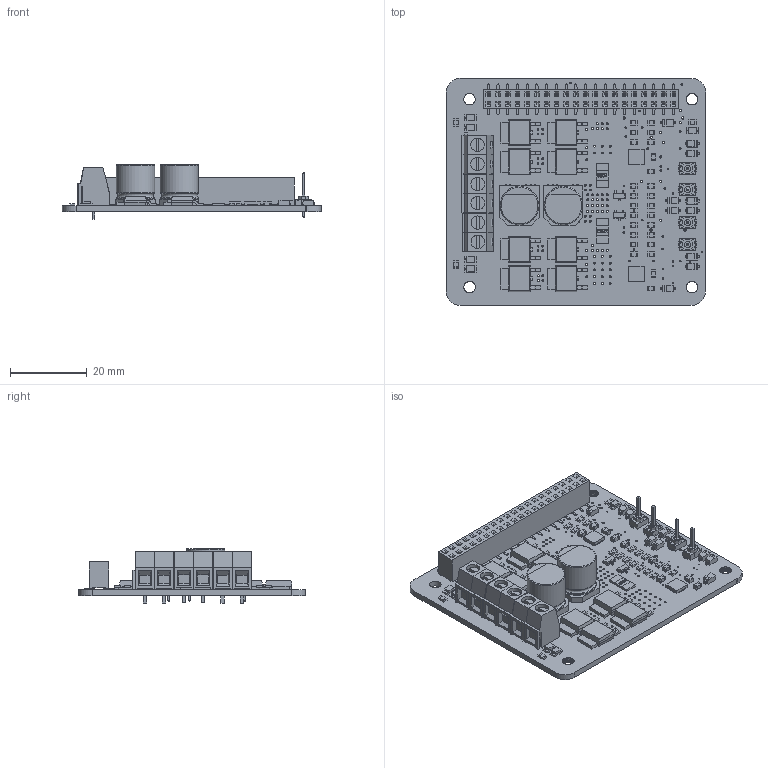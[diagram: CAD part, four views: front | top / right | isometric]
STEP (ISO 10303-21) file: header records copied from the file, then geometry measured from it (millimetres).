
FILE_DESCRIPTION(/* description */ (''),/* implementation_level */ '2;1');
FILE_NAME(/* name */ 'HAT-MDD10.step',/* time_stamp */ '2023-05-25T16:21:13+08:00',/* author */ (''),/* organization */ (''),/* preprocessor_version */ 'ST-DEVELOPER v19.2',/* originating_system */ 'Autodesk Translation Framework v12.4.0.73',/* authorisation */ '');
FILE_SCHEMA (('AUTOMOTIVE_DESIGN { 1 0 10303 214 3 1 1 }'));
Products named in the file (26): (Unsaved); Board; Packages; HDR-F2X20-SMD; TERMINAL-KF127-2P-MD; TERMINAL-KF127-3P-b_Green; TERMINAL-KF127-3P-a_Green; TERMINAL-KF127-2P-MD (1); TERMINAL-KF127-3P-b_Green (1); TERMINAL-KF127-3P-a_Green (1); TERMINAL-KF127-2P-MD (2); TERMINAL-KF127-3P-b_Green (2); TERMINAL-KF127-3P-a_Green (2); DPAK; QFN-24; SOT-23; CCAP-2012; D-SOD-123@1; D-SOD-123@1 (1); D-SOD-123; ECAP-CHEMICON-J; LED-3216; R-2012; R-6432; S-SW-PBM-KAN0444; 1X01
Assembly tree (80 placements, depth 4):
  (Unsaved)
    Board
    Packages
      HDR-F2X20-SMD
      TERMINAL-KF127-2P-MD
        TERMINAL-KF127-3P-b_Green
        TERMINAL-KF127-3P-a_Green
      TERMINAL-KF127-2P-MD (1)
        TERMINAL-KF127-3P-b_Green (1)
        TERMINAL-KF127-3P-a_Green (1)
      TERMINAL-KF127-2P-MD (2)
        TERMINAL-KF127-3P-b_Green (2)
        TERMINAL-KF127-3P-a_Green (2)
      DPAK  x8
      QFN-24  x2
      SOT-23  x2
      CCAP-2012  x10
      D-SOD-123@1
      D-SOD-123@1 (1)
      D-SOD-123  x8
      ECAP-CHEMICON-J  x2
      LED-3216  x5
      R-2012  x19
      R-6432  x2
      S-SW-PBM-KAN0444  x4
      1X01  x4
Bounding box: 67.56 x 59.19 x 14.24 mm (x, y, z)
Volume: 12602.3 mm3; surface area: 17461.7 mm2
Topology: 78 solids, 78 shells, 4655 faces, 12358 edges, 8032 vertices
Faces by surface type: plane 3838, cylinder 747, bspline 58, torus 12
Full cylindrical faces by diameter (mm): 0.4 x42, 0.5 x217, 0.6 x13, 1.016 x4, 1.1 x18, 1.75 x4, 1.9 x2, 3 x1, 3.5 x6, 10 x4
Entity records: 97104 total; most frequent: CARTESIAN_POINT 18505, ORIENTED_EDGE 15892, DIRECTION 15165, EDGE_CURVE 7946, LINE 6713, VECTOR 6713, VERTEX_POINT 5166, AXIS2_PLACEMENT_3D 4226
